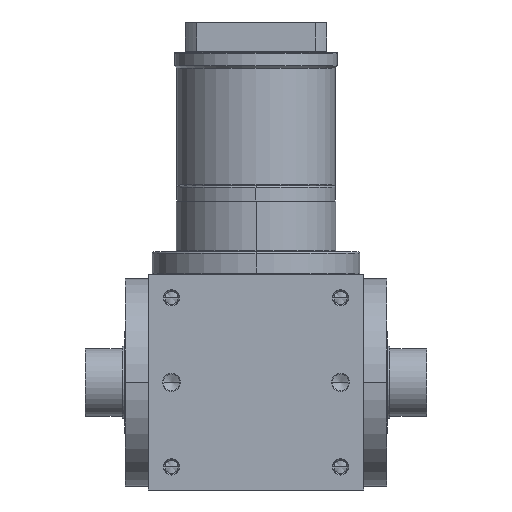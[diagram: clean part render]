
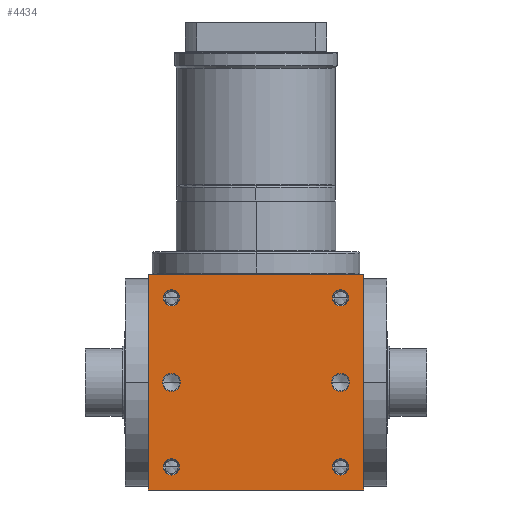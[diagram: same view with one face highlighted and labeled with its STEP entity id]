
A CAD part, front view. The second image highlights one B-rep face of the part: STEP entity #4434.
In plain terms, the highlighted planar face has unit normal (0, -1, 0).
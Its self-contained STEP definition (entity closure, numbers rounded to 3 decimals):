
#5=DIRECTION('',(1.,0.,0.));
#6=VECTOR('',#5,140.);
#7=CARTESIAN_POINT('',(-70.,-70.,-70.));
#8=LINE('',#7,#6);
#155=DIRECTION('',(0.,0.,1.));
#156=VECTOR('',#155,140.);
#157=CARTESIAN_POINT('',(70.,-70.,-70.));
#158=LINE('',#157,#156);
#209=DIRECTION('',(0.,0.,1.));
#210=VECTOR('',#209,140.);
#211=CARTESIAN_POINT('',(-70.,-70.,-70.));
#212=LINE('',#211,#210);
#213=CARTESIAN_POINT('',(55.,-70.,55.));
#214=DIRECTION('',(0.,1.,0.));
#215=DIRECTION('',(-1.,0.,0.));
#216=AXIS2_PLACEMENT_3D('',#213,#214,#215);
#218=CARTESIAN_POINT('',(55.,-70.,55.));
#219=DIRECTION('',(0.,1.,0.));
#220=DIRECTION('',(1.,0.,0.));
#221=AXIS2_PLACEMENT_3D('',#218,#219,#220);
#223=CARTESIAN_POINT('',(-55.,-70.,55.));
#224=DIRECTION('',(0.,1.,0.));
#225=DIRECTION('',(-1.,0.,0.));
#226=AXIS2_PLACEMENT_3D('',#223,#224,#225);
#228=CARTESIAN_POINT('',(-55.,-70.,55.));
#229=DIRECTION('',(0.,1.,0.));
#230=DIRECTION('',(1.,0.,0.));
#231=AXIS2_PLACEMENT_3D('',#228,#229,#230);
#233=CARTESIAN_POINT('',(55.,-70.,-55.));
#234=DIRECTION('',(0.,1.,0.));
#235=DIRECTION('',(-1.,0.,0.));
#236=AXIS2_PLACEMENT_3D('',#233,#234,#235);
#238=CARTESIAN_POINT('',(55.,-70.,-55.));
#239=DIRECTION('',(0.,1.,0.));
#240=DIRECTION('',(1.,0.,0.));
#241=AXIS2_PLACEMENT_3D('',#238,#239,#240);
#243=CARTESIAN_POINT('',(-55.,-70.,-55.));
#244=DIRECTION('',(0.,1.,0.));
#245=DIRECTION('',(-1.,0.,0.));
#246=AXIS2_PLACEMENT_3D('',#243,#244,#245);
#248=CARTESIAN_POINT('',(-55.,-70.,-55.));
#249=DIRECTION('',(0.,1.,0.));
#250=DIRECTION('',(1.,0.,0.));
#251=AXIS2_PLACEMENT_3D('',#248,#249,#250);
#253=CARTESIAN_POINT('',(-55.,-70.,0.));
#254=DIRECTION('',(0.,1.,0.));
#255=DIRECTION('',(1.,0.,0.));
#256=AXIS2_PLACEMENT_3D('',#253,#254,#255);
#258=CARTESIAN_POINT('',(-55.,-70.,0.));
#259=DIRECTION('',(0.,1.,0.));
#260=DIRECTION('',(-1.,0.,0.));
#261=AXIS2_PLACEMENT_3D('',#258,#259,#260);
#263=CARTESIAN_POINT('',(55.,-70.,0.));
#264=DIRECTION('',(0.,1.,0.));
#265=DIRECTION('',(1.,0.,0.));
#266=AXIS2_PLACEMENT_3D('',#263,#264,#265);
#268=CARTESIAN_POINT('',(55.,-70.,0.));
#269=DIRECTION('',(0.,1.,0.));
#270=DIRECTION('',(-1.,0.,0.));
#271=AXIS2_PLACEMENT_3D('',#268,#269,#270);
#285=DIRECTION('',(1.,0.,0.));
#286=VECTOR('',#285,140.);
#287=CARTESIAN_POINT('',(-70.,-70.,70.));
#288=LINE('',#287,#286);
#3572=CARTESIAN_POINT('',(-70.,-70.,-70.));
#3574=VERTEX_POINT('',#3572);
#3575=CARTESIAN_POINT('',(70.,-70.,-70.));
#3576=VERTEX_POINT('',#3575);
#3580=CARTESIAN_POINT('',(-70.,-70.,70.));
#3582=VERTEX_POINT('',#3580);
#3583=CARTESIAN_POINT('',(70.,-70.,70.));
#3584=VERTEX_POINT('',#3583);
#3739=CARTESIAN_POINT('',(49.75,-70.,55.));
#3740=CARTESIAN_POINT('',(60.25,-70.,55.));
#3741=VERTEX_POINT('',#3739);
#3742=VERTEX_POINT('',#3740);
#3747=CARTESIAN_POINT('',(-60.25,-70.,55.));
#3748=CARTESIAN_POINT('',(-49.75,-70.,55.));
#3749=VERTEX_POINT('',#3747);
#3750=VERTEX_POINT('',#3748);
#3755=CARTESIAN_POINT('',(49.75,-70.,-55.));
#3756=CARTESIAN_POINT('',(60.25,-70.,-55.));
#3757=VERTEX_POINT('',#3755);
#3758=VERTEX_POINT('',#3756);
#3763=CARTESIAN_POINT('',(-60.25,-70.,-55.));
#3764=CARTESIAN_POINT('',(-49.75,-70.,-55.));
#3765=VERTEX_POINT('',#3763);
#3766=VERTEX_POINT('',#3764);
#4087=CARTESIAN_POINT('',(-49.15,-70.,
0.));
#4088=CARTESIAN_POINT('',(-60.85,-70.,
0.));
#4089=VERTEX_POINT('',#4087);
#4090=VERTEX_POINT('',#4088);
#4095=CARTESIAN_POINT('',(60.85,-70.,0.));
#4096=CARTESIAN_POINT('',(49.15,-70.,0.));
#4097=VERTEX_POINT('',#4095);
#4098=VERTEX_POINT('',#4096);
#4386=CARTESIAN_POINT('',(-70.,-70.,-70.));
#4387=DIRECTION('',(0.,-1.,0.));
#4388=DIRECTION('',(1.,0.,0.));
#4389=AXIS2_PLACEMENT_3D('',#4386,#4387,#4388);
#4390=PLANE('',#4389);
#4391=ORIENTED_EDGE('',*,*,#4226,.F.);
#4392=ORIENTED_EDGE('',*,*,#4269,.T.);
#4394=ORIENTED_EDGE('',*,*,#4393,.T.);
#4395=ORIENTED_EDGE('',*,*,#4348,.F.);
#4396=EDGE_LOOP('',(#4391,#4392,#4394,#4395));
#4397=FACE_OUTER_BOUND('',#4396,.F.);
#4399=ORIENTED_EDGE('',*,*,#4398,.F.);
#4401=ORIENTED_EDGE('',*,*,#4400,.F.);
#4402=EDGE_LOOP('',(#4399,#4401));
#4403=FACE_BOUND('',#4402,.F.);
#4405=ORIENTED_EDGE('',*,*,#4404,.F.);
#4407=ORIENTED_EDGE('',*,*,#4406,.F.);
#4408=EDGE_LOOP('',(#4405,#4407));
#4409=FACE_BOUND('',#4408,.F.);
#4411=ORIENTED_EDGE('',*,*,#4410,.F.);
#4413=ORIENTED_EDGE('',*,*,#4412,.F.);
#4414=EDGE_LOOP('',(#4411,#4413));
#4415=FACE_BOUND('',#4414,.F.);
#4417=ORIENTED_EDGE('',*,*,#4416,.F.);
#4419=ORIENTED_EDGE('',*,*,#4418,.F.);
#4420=EDGE_LOOP('',(#4417,#4419));
#4421=FACE_BOUND('',#4420,.F.);
#4423=ORIENTED_EDGE('',*,*,#4422,.F.);
#4425=ORIENTED_EDGE('',*,*,#4424,.F.);
#4426=EDGE_LOOP('',(#4423,#4425));
#4427=FACE_BOUND('',#4426,.F.);
#4429=ORIENTED_EDGE('',*,*,#4428,.F.);
#4431=ORIENTED_EDGE('',*,*,#4430,.F.);
#4432=EDGE_LOOP('',(#4429,#4431));
#4433=FACE_BOUND('',#4432,.F.);
#4434=ADVANCED_FACE('',(#4397,#4403,#4409,#4415,#4421,#4427,#4433),#4390,.T.);
#217=CIRCLE('',#216,5.25);
#222=CIRCLE('',#221,5.25);
#227=CIRCLE('',#226,5.25);
#232=CIRCLE('',#231,5.25);
#237=CIRCLE('',#236,5.25);
#242=CIRCLE('',#241,5.25);
#247=CIRCLE('',#246,5.25);
#252=CIRCLE('',#251,5.25);
#257=CIRCLE('',#256,5.85);
#262=CIRCLE('',#261,5.85);
#267=CIRCLE('',#266,5.85);
#272=CIRCLE('',#271,5.85);
#4226=EDGE_CURVE('',#3574,#3576,#8,.T.);
#4269=EDGE_CURVE('',#3574,#3582,#212,.T.);
#4348=EDGE_CURVE('',#3576,#3584,#158,.T.);
#4393=EDGE_CURVE('',#3582,#3584,#288,.T.);
#4398=EDGE_CURVE('',#3741,#3742,#217,.T.);
#4400=EDGE_CURVE('',#3742,#3741,#222,.T.);
#4404=EDGE_CURVE('',#3749,#3750,#227,.T.);
#4406=EDGE_CURVE('',#3750,#3749,#232,.T.);
#4410=EDGE_CURVE('',#3757,#3758,#237,.T.);
#4412=EDGE_CURVE('',#3758,#3757,#242,.T.);
#4416=EDGE_CURVE('',#3765,#3766,#247,.T.);
#4418=EDGE_CURVE('',#3766,#3765,#252,.T.);
#4422=EDGE_CURVE('',#4089,#4090,#257,.T.);
#4424=EDGE_CURVE('',#4090,#4089,#262,.T.);
#4428=EDGE_CURVE('',#4097,#4098,#267,.T.);
#4430=EDGE_CURVE('',#4098,#4097,#272,.T.);
